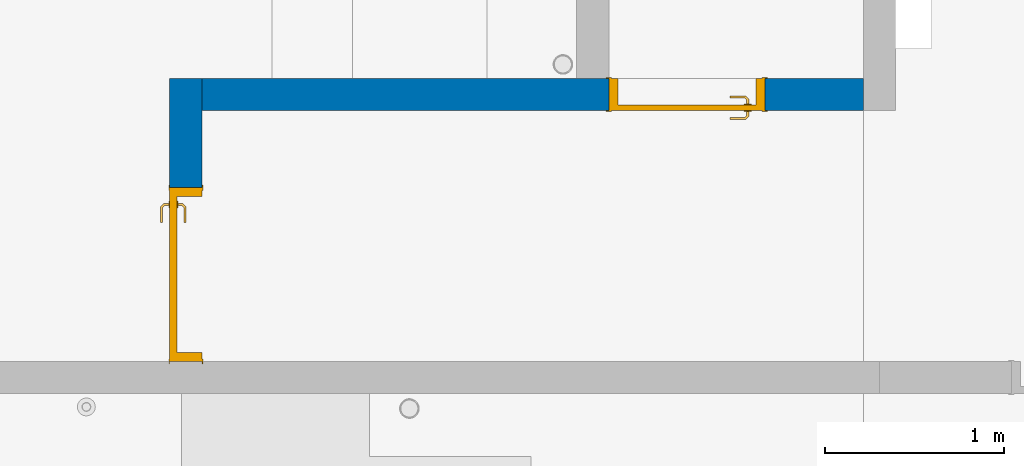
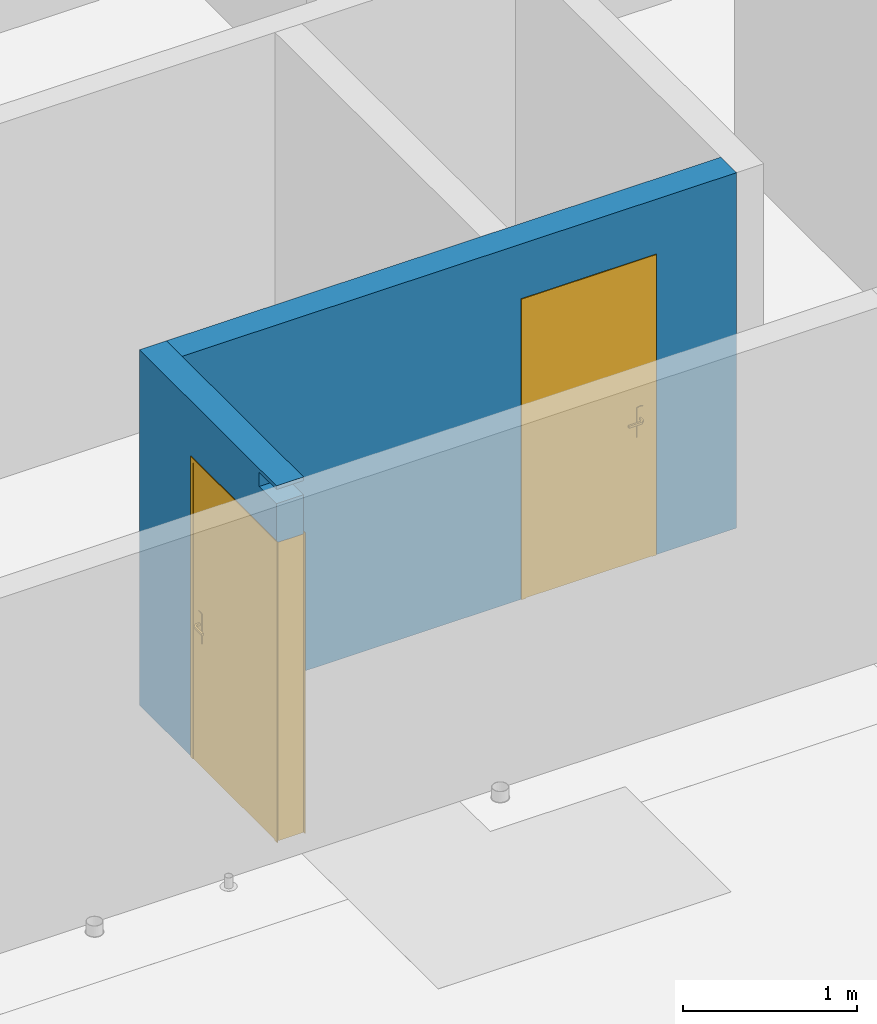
# One storey, part 8 of 34: 2 doors, 2 walls, 3 openings.
"""IFC2X3 building model written with IfcOpenShell, lengths in centimetres."""

from ifc_helpers import new_model, entity, si_unit, converted_unit, derived_unit, direction, frame, frame_2d, origin, place, context, subcontext, project, spatial, rectangle, extrude, faceted_brep, source, transform, mapped, material, material_list, layer, layer_set, layer_usage, type_object, type_shapes, element, fill, save


model = new_model("IFC2X3")

# Units and contexts
model_context = context("Model", 3, precision=0.001, world=origin(), true_north=direction((6.12303176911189e-17, 1.0)))
body_context = subcontext(model_context, "Body", "Model", "MODEL_VIEW")
ifc_project = project(units=[si_unit("LENGTHUNIT", "METRE", prefix="CENTI"), si_unit("AREAUNIT", "SQUARE_METRE"), si_unit("VOLUMEUNIT", "CUBIC_METRE"), converted_unit("PLANEANGLEUNIT", "DEGREE", entity("IfcRatioMeasure", 0.0174532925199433), si_unit("PLANEANGLEUNIT", "RADIAN"), dimensions=[0, 0, 0, 0, 0, 0, 0]), si_unit("MASSUNIT", "GRAM", prefix="KILO"), derived_unit("MASSDENSITYUNIT", [(si_unit("MASSUNIT", "GRAM", prefix="KILO"), 1), (si_unit("LENGTHUNIT", "METRE"), -3)]), si_unit("TIMEUNIT", "SECOND"), si_unit("FREQUENCYUNIT", "HERTZ"), si_unit("THERMODYNAMICTEMPERATUREUNIT", "DEGREE_CELSIUS"), derived_unit("THERMALTRANSMITTANCEUNIT", [(si_unit("MASSUNIT", "GRAM", prefix="KILO"), 1), (si_unit("THERMODYNAMICTEMPERATUREUNIT", "KELVIN"), -1), (si_unit("TIMEUNIT", "SECOND"), -3)]), derived_unit("VOLUMETRICFLOWRATEUNIT", [(si_unit("LENGTHUNIT", "METRE"), 3), (si_unit("TIMEUNIT", "SECOND"), -1)]), si_unit("ELECTRICCURRENTUNIT", "AMPERE"), si_unit("ELECTRICVOLTAGEUNIT", "VOLT"), si_unit("POWERUNIT", "WATT"), si_unit("FORCEUNIT", "NEWTON"), si_unit("ILLUMINANCEUNIT", "LUX"), si_unit("LUMINOUSFLUXUNIT", "LUMEN"), si_unit("LUMINOUSINTENSITYUNIT", "CANDELA"), derived_unit("USERDEFINED", [(si_unit("MASSUNIT", "GRAM", prefix="KILO"), -1), (si_unit("LENGTHUNIT", "METRE"), -2), (si_unit("TIMEUNIT", "SECOND"), 3), (si_unit("LUMINOUSFLUXUNIT", "LUMEN"), 1)]), derived_unit("LINEARVELOCITYUNIT", [(si_unit("LENGTHUNIT", "METRE"), 1), (si_unit("TIMEUNIT", "SECOND"), -1)]), si_unit("PRESSUREUNIT", "PASCAL"), derived_unit("USERDEFINED", [(si_unit("LENGTHUNIT", "METRE"), -2), (si_unit("MASSUNIT", "GRAM", prefix="KILO"), 1), (si_unit("TIMEUNIT", "SECOND"), -2)])], contexts=[model_context])

# Site, building, storey
site_placement = place(None, origin())
site = spatial("IfcSite", under=ifc_project, at=site_placement, Name="Default", CompositionType="ELEMENT")
building_placement = place(site_placement, origin())
building = spatial("IfcBuilding", under=site, at=building_placement, Name="CAGE 03", CompositionType="ELEMENT")
storey_placement = place(building_placement, frame((0.0, 0.0, 340.0)))
storey = spatial("IfcBuildingStorey", under=building, at=storey_placement, Name="R+1", CompositionType="ELEMENT", Elevation=340.0)

# Wall, openings, door
ifc_material_1 = material(Name="Béton, C25/30")
ifc_layer = layer(ifc_material_1, 18.0)
ifc_layer_set = layer_set([ifc_layer], Name="Mur de base:Voile BA 18")
ifc_layer_usage_1 = layer_usage(ifc_layer_set, "AXIS2", "NEGATIVE", 9.0)
wall_type = type_object("IfcWallType", Name="Mur de base:Voile BA 18", PredefinedType="STANDARD", material=ifc_layer_set)
wall_1_placement = place(storey_placement, frame((6453.36582014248, 4492.6606660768, 0.0), z_axis=(0.0, 0.0, 1.0), x_axis=(0.0, 1.0, 0.0)))
wall_1 = element("IfcWallStandardCase", 1, at=wall_1_placement, inside=storey, type_object=wall_type, material=ifc_layer_usage_1, Name="Mur de base:Voile BA 18", ObjectType="Mur de base:Voile BA 18", context=body_context, shape_type="SweptSolid", body=[
    extrude(rectangle(XDim=158.0, YDim=17.9999999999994, at=frame_2d((78.9999999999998, 1.66977542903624e-13), x_axis=(-1.0, 0.0))), origin(), (0.0, 0.0, 1.0), 250.0),
])
opening_1_placement = place(wall_1_placement, origin())
element("IfcOpeningElement", 2, at=opening_1_placement, cuts=wall_1, Name="Mur de base:Voile BA 18", ObjectType="Opening", context=body_context, shape_type="SweptSolid", body=[
    extrude(rectangle(XDim=10.0, YDim=19.9999999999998, at=frame_2d((-4.33431068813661e-13, 5.41788836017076e-14), x_axis=(0.0, 1.0))), frame((10.0, -9.0, 242.5), z_axis=(0.0, 1.0, 0.0), x_axis=(1.0, 0.0, 0.0)), (0.0, 0.0, 1.0), 17.9999999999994),
])
opening_2_placement = place(wall_1_placement, frame((0.0, -9.0, 0.0)))
opening_2 = element("IfcOpeningElement", 3, at=opening_2_placement, cuts=wall_1, Name="Int. Simple:HB93:1", ObjectType="Opening", context=body_context, shape_type="SweptSolid", body=[
    extrude(rectangle(XDim=210.000000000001, YDim=96.9999999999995, at=frame_2d((105.000000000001, 48.4999999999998), x_axis=(1.0, 0.0))), frame((0.0, 0.0, 0.0), z_axis=(0.0, 1.0, 0.0), x_axis=(0.0, 0.0, 1.0)), (0.0, 0.0, 1.0), 18.0),
])
ifc_material_2 = material(Name="Finition Peinture - Blanc satiné")
ifc_material_3 = material(Name="Bois - Panneau de porte")
ifc_material_4 = material(Name="Bois - Cadre de porte")
ifc_material_list_1 = material_list([ifc_material_2, ifc_material_3, ifc_material_4])
ifc_material_list_2 = material_list([ifc_material_2, ifc_material_3, ifc_material_4])
door_style_1 = type_object("IfcDoorStyle", Name="HB93", ConstructionType="NOTDEFINED", OperationType="SINGLE_SWING_LEFT", ParameterTakesPrecedence=False, Sizeable=False, material=ifc_material_list_2)
shared_shape_1 = source(origin(), body_context, "Body", "Brep", [
    faceted_brep([(10.5352761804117, -0.500000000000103, 86.6003983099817), (11.5000000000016, -0.500000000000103, 87.0), (11.5000000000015, -0.500000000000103, 108.0), (10.5352761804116, -0.500000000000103, 108.399601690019), (9.50000000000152, -0.500000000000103, 108.535898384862), (8.46472381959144, -0.500000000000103, 108.399601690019), (7.50000000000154, -0.500000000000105, 108.0), (7.50000000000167, -0.500000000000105, 87.0), (8.46472381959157, -0.500000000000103, 86.6003983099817), (9.50000000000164, -0.500000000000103, 86.464101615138), (10.5352761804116, 0.0, 108.399601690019), (11.5000000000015, 0.0, 108.0), (11.5000000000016, 0.0, 87.0), (10.5352761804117, 0.0, 86.6003983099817), (9.50000000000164, 0.0, 86.464101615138), (8.46472381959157, 0.0, 86.6003983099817), (7.50000000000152, 0.0, 87.0), (7.50000000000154, 0.0, 108.0), (8.46472381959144, 0.0, 108.399601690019), (9.50000000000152, 0.0, 108.535898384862)], [[[0, 1, 2, 3, 4, 5, 6, 7, 8, 9]], [[10, 11, 12, 13, 14, 15, 16, 17, 18, 19]], [[16, 15, 8, 7]], [[8, 15, 14, 9]], [[14, 13, 0, 9]], [[13, 12, 1, 0]], [[2, 1, 12, 11]], [[11, 10, 3, 2]], [[3, 10, 19, 4]], [[19, 18, 5, 4]], [[18, 17, 6, 5]], [[7, 6, 17, 16]]]),
    faceted_brep([(10.5352761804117, 4.0, 86.6003983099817), (11.5000000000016, 4.0, 87.0), (11.5000000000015, 4.0, 108.0), (10.5352761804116, 4.0, 108.399601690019), (9.50000000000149, 4.0, 108.535898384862), (8.46472381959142, 4.0, 108.399601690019), (7.50000000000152, 4.0, 108.0), (7.50000000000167, 4.0, 87.0), (8.46472381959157, 4.0, 86.6003983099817), (9.50000000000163, 4.0, 86.464101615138), (10.5352761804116, 4.49999999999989, 108.399601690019), (11.5000000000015, 4.4999999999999, 108.0), (11.5000000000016, 4.4999999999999, 87.0), (10.5352761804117, 4.49999999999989, 86.6003983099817), (9.50000000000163, 4.49999999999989, 86.464101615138), (8.46472381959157, 4.49999999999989, 86.6003983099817), (7.50000000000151, 4.49999999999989, 87.0), (7.50000000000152, 4.49999999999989, 108.0), (8.46472381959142, 4.49999999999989, 108.399601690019), (9.50000000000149, 4.49999999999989, 108.535898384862)], [[[0, 1, 2, 3, 4, 5, 6, 7, 8, 9]], [[10, 11, 12, 13, 14, 15, 16, 17, 18, 19]], [[11, 10, 3, 2]], [[3, 10, 19, 4]], [[19, 18, 5, 4]], [[18, 17, 6, 5]], [[7, 6, 17, 16]], [[16, 15, 8, 7]], [[8, 15, 14, 9]], [[14, 13, 0, 9]], [[13, 12, 1, 0]], [[2, 1, 12, 11]]]),
    faceted_brep([(9.29747013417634, -0.500000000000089, 100.778044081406), (9.70252986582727, -0.500000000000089, 100.778044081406), (10.1000000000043, -0.500000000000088, 100.699999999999), (10.1000000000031, -0.500000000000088, 99.3000000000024), (9.70252986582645, -0.500000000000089, 99.2219559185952), (9.29747013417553, -0.500000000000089, 99.221955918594), (8.89999999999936, -0.500000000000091, 99.2999999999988), (8.89999999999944, -0.500000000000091, 100.7), (8.89999999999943, -3.26509507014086, 100.7), (9.29747013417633, -3.10045754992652, 100.778044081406), (10.9023585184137, -4.70534593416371, 100.778044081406), (11.0701397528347, -4.30028620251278, 100.778044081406), (9.70252986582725, -2.93267631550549, 100.778044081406), (10.1000000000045, -2.76803879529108, 100.7), (10.1000000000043, -2.76803879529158, 99.3000000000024), (9.70252986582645, -2.93267631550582, 99.2219559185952), (11.0701397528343, -4.30028620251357, 99.2219559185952), (10.9023585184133, -4.70534593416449, 99.221955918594), (9.29747013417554, -3.10045754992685, 99.221955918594), (8.89999999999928, -3.26509507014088, 99.2999999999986), (10.7377209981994, -5.1028160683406, 100.7), (11.2347772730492, -3.90281606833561, 100.7), (11.2347772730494, -3.90281606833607, 99.3000000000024), (10.7377209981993, -5.10281606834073, 99.2999999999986), (19.5018640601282, -5.1028160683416, 99.2999999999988), (19.5018640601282, -4.70534593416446, 99.221955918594), (19.5018640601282, -4.30028620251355, 99.2219559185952), (19.5018640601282, -3.90281606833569, 99.3000000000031), (19.5018640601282, -3.90281606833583, 100.7), (19.5018640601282, -4.30028620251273, 100.778044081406), (19.5018640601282, -4.70534593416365, 100.778044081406), (19.5018640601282, -5.10281606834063, 100.699999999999), (14.7307697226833, -5.10281606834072, 100.7), (15.28600190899, -4.5028160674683, 100.78786867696), (15.3683206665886, -3.9028160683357, 100.7), (15.3683206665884, -3.90281606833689, 99.3000000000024), (15.2860018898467, -4.50281607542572, 99.2121313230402), (14.7307700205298, -5.10281606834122, 99.2999999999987)], [[[0, 1, 2, 3, 4, 5, 6, 7]], [[8, 9, 0, 7]], [[9, 10, 11, 12, 1, 0]], [[12, 13, 2, 1]], [[3, 2, 13, 14]], [[14, 15, 4, 3]], [[15, 16, 17, 18, 5, 4]], [[18, 19, 6, 5]], [[7, 6, 19, 8]], [[20, 10, 9, 8]], [[11, 21, 13, 12]], [[14, 13, 21, 22]], [[22, 16, 15, 14]], [[17, 23, 19, 18]], [[8, 19, 23, 20]], [[24, 25, 26, 27, 28, 29, 30, 31]], [[32, 30, 33]], [[31, 30, 32]], [[10, 20, 32]], [[33, 34, 11]], [[21, 11, 34]], [[34, 29, 28]], [[30, 29, 33]], [[29, 34, 33]], [[10, 32, 33]], [[10, 33, 11]], [[22, 21, 34, 28, 27, 35]], [[35, 26, 36]], [[37, 36, 25]], [[22, 35, 16]], [[35, 27, 26]], [[24, 37, 25]], [[23, 17, 37]], [[37, 17, 36]], [[17, 16, 36]], [[16, 35, 36]], [[25, 36, 26]], [[20, 23, 37, 24, 31, 32]]]),
    faceted_brep([(9.29747013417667, 4.49999999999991, 100.778044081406), (8.89999999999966, 4.49999999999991, 100.7), (8.89999999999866, 4.49999999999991, 99.2999999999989), (9.2974701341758, 4.49999999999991, 99.221955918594), (9.70252986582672, 4.49999999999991, 99.2219559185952), (10.1000000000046, 4.49999999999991, 99.3000000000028), (10.1000000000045, 4.49999999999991, 100.7), (9.70252986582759, 4.49999999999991, 100.778044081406), (10.1000000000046, 6.7485204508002, 99.3000000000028), (10.1000000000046, 6.74852045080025, 100.7), (9.70252986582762, 6.91315797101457, 100.778044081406), (11.0838906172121, 8.29451872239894, 100.778044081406), (10.9161093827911, 8.69957845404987, 100.778044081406), (9.29747013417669, 7.0809392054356, 100.778044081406), (8.89999999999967, 7.24557672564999, 100.7), (8.89999999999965, 7.24557672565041, 99.2999999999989), (9.29747013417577, 7.08093920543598, 99.221955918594), (10.9161093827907, 8.69957845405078, 99.221955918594), (11.0838906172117, 8.29451872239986, 99.2219559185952), (9.7025298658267, 6.91315797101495, 99.2219559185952), (11.2485281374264, 7.89704858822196, 99.3000000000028), (11.2485281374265, 7.89704858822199, 100.7), (10.7514718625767, 9.0970485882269, 100.7), (10.751471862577, 9.0970485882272, 99.2999999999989), (19.504578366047, 7.89704858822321, 99.3000000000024), (19.504578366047, 8.29451872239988, 99.2219559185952), (19.504578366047, 8.6995784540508, 99.221955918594), (19.504578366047, 9.09704858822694, 99.2999999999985), (19.504578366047, 9.09704858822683, 100.7), (19.504578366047, 8.69957845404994, 100.778044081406), (19.504578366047, 8.29451872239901, 100.778044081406), (19.504578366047, 7.89704858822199, 100.7), (15.3765520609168, 7.89704858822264, 99.3000000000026), (15.3765532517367, 7.89704858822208, 100.7), (15.294234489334, 8.49704858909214, 100.78786867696), (14.7445205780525, 9.09704858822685, 100.7), (14.7445204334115, 9.09704858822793, 99.2999999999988), (15.2942345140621, 8.49704858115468, 99.2121313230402)], [[[0, 1, 2, 3, 4, 5, 6, 7]], [[6, 5, 8, 9]], [[9, 10, 7, 6]], [[10, 11, 12, 13, 0, 7]], [[13, 14, 1, 0]], [[2, 1, 14, 15]], [[15, 16, 3, 2]], [[16, 17, 18, 19, 4, 3]], [[19, 8, 5, 4]], [[9, 8, 20, 21]], [[21, 11, 10, 9]], [[12, 22, 14, 13]], [[15, 14, 22, 23]], [[23, 17, 16, 15]], [[18, 20, 8, 19]], [[24, 25, 26, 27, 28, 29, 30, 31]], [[21, 20, 32, 24, 31, 33]], [[33, 30, 34]], [[35, 34, 29]], [[21, 33, 11]], [[33, 31, 30]], [[28, 35, 29]], [[22, 12, 35]], [[35, 12, 34]], [[12, 11, 34]], [[11, 33, 34]], [[29, 34, 30]], [[22, 35, 28, 27, 36, 23]], [[36, 26, 37]], [[27, 26, 36]], [[17, 23, 36]], [[37, 32, 18]], [[20, 18, 32]], [[32, 25, 24]], [[26, 25, 37]], [[25, 32, 37]], [[17, 36, 37]], [[17, 37, 18]]]),
    faceted_brep([(3.50000000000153, 4.0, 206.5), (93.5000000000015, 4.0, 206.5), (93.5000000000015, 4.0, 0.0), (3.50000000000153, 4.0, 0.0), (3.50000000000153, 0.0, 206.5), (3.50000000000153, 0.0, 0.0), (93.5000000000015, 0.0, 0.0), (93.5000000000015, 0.0, 206.5)], [[[0, 1, 2, 3]], [[4, 5, 6, 7]], [[1, 0, 4, 7]], [[2, 1, 7, 6]], [[3, 2, 6, 5]], [[0, 3, 5, 4]]]),
    faceted_brep([(0.0, 0.0, 0.0), (0.0, 18.0, 0.0), (5.0, 18.0, 0.0), (5.0, 4.0, 0.0), (3.50000000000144, 4.0, 0.0), (3.50000000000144, 0.0, 0.0), (0.0, 0.0, 210.0), (0.0, 18.0, 210.0), (97.0, 18.0, 210.0), (97.0, 18.0, 0.0), (92.0, 18.0, 0.0), (92.0, 18.0, 205.0), (5.0, 18.0, 205.0), (5.0, 4.0, 205.0), (92.0, 4.0, 205.0), (92.0, 4.0, 0.0), (93.4999999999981, 4.0, 0.0), (93.4999999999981, 4.0, 206.5), (3.50000000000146, 4.0, 206.5), (3.50000000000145, 0.0, 206.5), (93.4999999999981, 0.0, 206.5), (93.4999999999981, 0.0, 0.0), (97.0, 0.0, 0.0), (97.0, 0.0, 210.0)], [[[0, 1, 2, 3, 4, 5]], [[1, 0, 6, 7]], [[2, 1, 7, 8, 9, 10, 11, 12]], [[3, 2, 12, 13]], [[4, 3, 13, 14, 15, 16, 17, 18]], [[5, 4, 18, 19]], [[0, 5, 19, 20, 21, 22, 23, 6]], [[8, 23, 22, 9]], [[22, 21, 16, 15, 10, 9]], [[14, 11, 10, 15]], [[20, 17, 16, 21]], [[7, 6, 23, 8]], [[13, 12, 11, 14]], [[19, 18, 17, 20]]]),
    faceted_brep([(1.5, 18.0, 0.0), (-1.49999999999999, 18.0, 0.0), (-1.49999999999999, 18.5000000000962, 0.0), (1.5, 18.5000000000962, 0.0), (1.5, 18.0, 208.500000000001), (95.4999999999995, 18.0, 208.500000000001), (95.4999999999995, 18.0, 0.0), (98.4999999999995, 18.0, 0.0), (98.4999999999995, 18.0, 211.500000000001), (-1.49999999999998, 18.0, 211.500000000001), (-1.49999999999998, 18.5000000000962, 211.500000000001), (98.4999999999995, 18.5000000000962, 211.500000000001), (98.4999999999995, 18.5000000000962, 0.0), (95.4999999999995, 18.5000000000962, 0.0), (95.4999999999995, 18.5000000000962, 208.500000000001), (1.50000000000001, 18.5000000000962, 208.500000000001)], [[[0, 1, 2, 3]], [[1, 0, 4, 5, 6, 7, 8, 9]], [[2, 1, 9, 10]], [[3, 2, 10, 11, 12, 13, 14, 15]], [[0, 3, 15, 4]], [[6, 13, 12, 7]], [[5, 14, 13, 6]], [[11, 8, 7, 12]], [[10, 9, 8, 11]], [[4, 15, 14, 5]]]),
    faceted_brep([(-1.49999999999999, -0.5, 0.0), (1.5, -0.5, 0.0), (1.5, -0.5, 208.500000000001), (95.4999999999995, -0.5, 208.500000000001), (95.4999999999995, -0.5, 0.0), (98.4999999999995, -0.5, 0.0), (98.4999999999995, -0.5, 211.500000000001), (-1.49999999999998, -0.5, 211.500000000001), (-1.49999999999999, 0.0, 0.0), (-1.49999999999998, 0.0, 211.500000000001), (1.5, 0.0, 0.0), (98.4999999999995, 0.0, 211.500000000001), (98.4999999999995, 0.0, 0.0), (95.4999999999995, 0.0, 0.0), (95.4999999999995, 0.0, 208.500000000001), (1.50000000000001, 0.0, 208.500000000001)], [[[0, 1, 2, 3, 4, 5, 6, 7]], [[8, 0, 7, 9]], [[10, 8, 9, 11, 12, 13, 14, 15]], [[1, 10, 15, 2]], [[3, 14, 13, 4]], [[11, 6, 5, 12]], [[9, 7, 6, 11]], [[2, 15, 14, 3]], [[4, 13, 12, 5]], [[1, 0, 8, 10]]]),
])
type_shapes(door_style_1, [shared_shape_1])
door_1_placement = place(opening_2_placement, frame((97.0, 18.0, 0.0), z_axis=(0.0, 0.0, 1.0), x_axis=(-1.0, 0.0, 0.0)))
door_1 = element("IfcDoor", 4, at=door_1_placement, inside=storey, type_object=door_style_1, material=ifc_material_list_1, Name="Int. Simple:HB93", ObjectType="HB93", OverallHeight=210.000000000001, OverallWidth=96.9999999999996, context=body_context, shape_type="MappedRepresentation", body=[
    mapped(shared_shape_1, transform((0.0, 0.0, 0.0), scale=1.0)),
])
fill(opening_2, door_1)

# Wall, opening, door
ifc_layer_usage_2 = layer_usage(ifc_layer_set, "AXIS2", "NEGATIVE", 9.0)
wall_2_placement = place(storey_placement, frame((6462.36582014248, 4641.6606660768, 0.0)))
wall_2 = element("IfcWallStandardCase", 5, at=wall_2_placement, inside=storey, type_object=wall_type, material=ifc_layer_usage_2, Name="Mur de base:Voile BA 18", ObjectType="Mur de base:Voile BA 18", context=body_context, shape_type="SweptSolid", body=[
    extrude(rectangle(XDim=369.000000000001, YDim=17.9999999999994, at=frame_2d((184.500000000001, -6.21724893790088e-14), x_axis=(-1.0, 0.0))), origin(), (0.0, 0.0, 1.0), 250.0),
])
opening_3_placement = place(wall_2_placement, frame((314.0, 9.0, 0.0)))
opening_3 = element("IfcOpeningElement", 6, at=opening_3_placement, cuts=wall_2, Name="Int. Simple:HB83:1", ObjectType="Opening", context=body_context, shape_type="SweptSolid", body=[
    extrude(rectangle(XDim=210.000000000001, YDim=86.9999999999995, at=frame_2d((105.000000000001, 43.4999999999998), x_axis=(1.0, 0.0))), frame((0.0, 0.0, 0.0), z_axis=(0.0, -1.0, 0.0), x_axis=(0.0, 0.0, 1.0)), (0.0, 0.0, 1.0), 18.0),
])
ifc_material_list_3 = material_list([ifc_material_2, ifc_material_3, ifc_material_4])
ifc_material_list_4 = material_list([ifc_material_2, ifc_material_3, ifc_material_4])
door_style_2 = type_object("IfcDoorStyle", Name="HB83", ConstructionType="NOTDEFINED", OperationType="SINGLE_SWING_RIGHT", ParameterTakesPrecedence=False, Sizeable=False, material=ifc_material_list_4)
shared_shape_2 = source(origin(), body_context, "Body", "Brep", [
    faceted_brep([(86.5000000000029, -0.500000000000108, 87.0), (86.5000000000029, -0.500000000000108, 108.0), (85.535276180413, -0.500000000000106, 108.399601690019), (84.5000000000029, -0.500000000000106, 108.535898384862), (83.4647238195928, -0.500000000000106, 108.399601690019), (82.500000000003, -0.500000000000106, 108.0), (82.5000000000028, -0.500000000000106, 87.0), (83.4647238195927, -0.500000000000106, 86.6003983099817), (84.5000000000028, -0.500000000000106, 86.464101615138), (85.5352761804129, -0.500000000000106, 86.6003983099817), (86.5000000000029, 0.0, 108.0), (86.5000000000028, 0.0, 87.0), (85.5352761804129, 0.0, 86.6003983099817), (84.5000000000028, 0.0, 86.464101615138), (83.4647238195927, 0.0, 86.6003983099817), (82.5000000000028, 0.0, 87.0), (82.500000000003, 0.0, 108.0), (83.4647238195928, 0.0, 108.399601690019), (84.5000000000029, 0.0, 108.535898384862), (85.535276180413, 0.0, 108.399601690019)], [[[0, 1, 2, 3, 4, 5, 6, 7, 8, 9]], [[10, 11, 12, 13, 14, 15, 16, 17, 18, 19]], [[9, 12, 11, 0]], [[8, 13, 12, 9]], [[7, 14, 13, 8]], [[7, 6, 15, 14]], [[15, 6, 5, 16]], [[4, 17, 16, 5]], [[3, 18, 17, 4]], [[2, 19, 18, 3]], [[2, 1, 10, 19]], [[11, 10, 1, 0]]]),
    faceted_brep([(86.5000000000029, 3.0, 87.0), (86.5000000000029, 3.0, 108.0), (85.535276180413, 3.0, 108.399601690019), (84.500000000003, 3.0, 108.535898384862), (83.4647238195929, 3.0, 108.399601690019), (82.500000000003, 3.0, 108.0), (82.5000000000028, 3.0, 87.0), (83.4647238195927, 3.0, 86.6003983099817), (84.5000000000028, 3.0, 86.464101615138), (85.5352761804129, 3.0, 86.6003983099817), (84.500000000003, 3.49999999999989, 108.535898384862), (85.535276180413, 3.49999999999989, 108.399601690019), (86.5000000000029, 3.49999999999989, 108.0), (86.5000000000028, 3.49999999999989, 87.0), (85.5352761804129, 3.49999999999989, 86.6003983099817), (84.5000000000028, 3.49999999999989, 86.464101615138), (83.4647238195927, 3.49999999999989, 86.6003983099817), (82.5000000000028, 3.49999999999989, 87.0), (82.500000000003, 3.49999999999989, 108.0), (83.4647238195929, 3.49999999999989, 108.399601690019)], [[[0, 1, 2, 3, 4, 5, 6, 7, 8, 9]], [[10, 11, 12, 13, 14, 15, 16, 17, 18, 19]], [[4, 19, 18, 5]], [[3, 10, 19, 4]], [[2, 11, 10, 3]], [[2, 1, 12, 11]], [[13, 12, 1, 0]], [[9, 14, 13, 0]], [[8, 15, 14, 9]], [[7, 16, 15, 8]], [[7, 6, 17, 16]], [[17, 6, 5, 18]]]),
    faceted_brep([(84.297470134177, -0.500000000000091, 100.778044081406), (84.7025298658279, -0.500000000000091, 100.778044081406), (85.1000000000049, -0.500000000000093, 100.699999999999), (85.1000000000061, -0.500000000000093, 99.299999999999), (84.702529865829, -0.500000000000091, 99.2219559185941), (84.297470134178, -0.500000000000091, 99.2219559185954), (83.9000000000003, -0.500000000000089, 99.3000000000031), (83.9000000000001, -0.500000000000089, 100.7), (84.7025298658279, -3.1004575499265, 100.778044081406), (85.1000000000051, -3.26509507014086, 100.7), (84.297470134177, -2.93267631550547, 100.778044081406), (82.9298602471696, -4.30028620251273, 100.778044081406), (83.0976414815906, -4.70534593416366, 100.778044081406), (83.9000000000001, -2.76803879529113, 100.7), (83.9000000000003, -2.76803879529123, 99.3000000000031), (84.297470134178, -2.93267631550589, 99.2219559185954), (84.702529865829, -3.10045754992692, 99.2219559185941), (83.097641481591, -4.70534593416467, 99.2219559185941), (82.92986024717, -4.30028620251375, 99.2219559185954), (85.1000000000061, -3.26509507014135, 99.299999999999), (83.2622790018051, -5.10281606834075, 100.7), (82.7652227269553, -3.90281606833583, 100.7), (82.7652227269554, -3.90281606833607, 99.3000000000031), (83.2622790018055, -5.10281606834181, 99.299999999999), (74.4981359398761, -5.1028160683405, 100.7), (74.4981359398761, -4.7053459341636, 100.778044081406), (74.4981359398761, -4.30028620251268, 100.778044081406), (74.4981359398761, -3.90281606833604, 100.699999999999), (74.4981359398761, -3.90281606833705, 99.3000000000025), (74.4981359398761, -4.30028620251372, 99.2219559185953), (74.4981359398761, -4.70534593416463, 99.2219559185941), (74.4981359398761, -5.10281606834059, 99.2999999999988), (78.7139980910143, -4.50281606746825, 100.78786867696), (79.2692302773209, -5.10281606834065, 100.7), (78.6316793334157, -3.90281606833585, 100.7), (78.6316793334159, -3.90281606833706, 99.3000000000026), (78.7139981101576, -4.50281607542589, 99.2121313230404), (79.2692299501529, -5.10281606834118, 99.2999999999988)], [[[0, 1, 2, 3, 4, 5, 6, 7]], [[2, 1, 8, 9]], [[1, 0, 10, 11, 12, 8]], [[0, 7, 13, 10]], [[14, 13, 7, 6]], [[5, 15, 14, 6]], [[5, 4, 16, 17, 18, 15]], [[3, 19, 16, 4]], [[9, 19, 3, 2]], [[9, 8, 12, 20]], [[10, 13, 21, 11]], [[22, 21, 13, 14]], [[14, 15, 18, 22]], [[16, 19, 23, 17]], [[20, 23, 19, 9]], [[24, 25, 26, 27, 28, 29, 30, 31]], [[32, 25, 33]], [[33, 25, 24]], [[33, 20, 12]], [[11, 34, 32]], [[34, 11, 21]], [[27, 26, 34]], [[32, 26, 25]], [[32, 34, 26]], [[32, 33, 12]], [[11, 32, 12]], [[21, 22, 35, 28, 27, 34]], [[36, 29, 35]], [[30, 36, 37]], [[18, 35, 22]], [[29, 28, 35]], [[30, 37, 31]], [[37, 17, 23]], [[36, 17, 37]], [[36, 18, 17]], [[36, 35, 18]], [[29, 36, 30]], [[23, 20, 33, 24, 31, 37]]]),
    faceted_brep([(84.2974701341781, 3.49999999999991, 99.2219559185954), (84.702529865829, 3.49999999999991, 99.2219559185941), (85.1000000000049, 3.4999999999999, 99.2999999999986), (85.1000000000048, 3.4999999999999, 100.7), (84.7025298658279, 3.49999999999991, 100.778044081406), (84.297470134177, 3.49999999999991, 100.778044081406), (83.9000000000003, 3.49999999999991, 100.7), (83.9000000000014, 3.49999999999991, 99.3000000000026), (83.9000000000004, 5.74852045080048, 100.7), (83.9000000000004, 5.74852045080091, 99.3000000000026), (84.2974701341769, 5.91315797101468, 100.778044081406), (84.7025298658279, 6.08093920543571, 100.778044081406), (83.0838906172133, 7.69957845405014, 100.778044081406), (82.9161093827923, 7.29451872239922, 100.778044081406), (85.1000000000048, 6.24557672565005, 100.7), (85.1000000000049, 6.2455767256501, 99.2999999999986), (84.702529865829, 6.08093920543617, 99.2219559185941), (84.2974701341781, 5.91315797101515, 99.2219559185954), (82.9161093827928, 7.29451872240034, 99.2219559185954), (83.0838906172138, 7.69957845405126, 99.2219559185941), (82.7514718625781, 6.89704858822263, 100.7), (82.7514718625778, 6.89704858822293, 99.3000000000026), (83.2485281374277, 8.09704858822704, 100.7), (83.2485281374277, 8.09704858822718, 99.2999999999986), (74.4954216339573, 7.29451872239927, 100.778044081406), (74.4954216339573, 7.6995784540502, 100.778044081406), (74.4954216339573, 8.0970485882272, 100.7), (74.4954216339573, 8.09704858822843, 99.299999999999), (74.4954216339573, 7.6995784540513, 99.2219559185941), (74.4954216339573, 7.29451872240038, 99.2219559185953), (74.4954216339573, 6.89704858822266, 99.3000000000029), (74.4954216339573, 6.89704858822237, 100.7), (78.6234467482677, 6.89704858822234, 100.7), (78.6234479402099, 6.89704858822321, 99.3000000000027), (78.7057655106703, 7.4970485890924, 100.78786867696), (79.255479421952, 8.09704858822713, 100.7), (79.2554794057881, 8.09704858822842, 99.299999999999), (78.7057654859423, 7.49704858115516, 99.2121313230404)], [[[0, 1, 2, 3, 4, 5, 6, 7]], [[8, 9, 7, 6]], [[5, 10, 8, 6]], [[5, 4, 11, 12, 13, 10]], [[3, 14, 11, 4]], [[14, 3, 2, 15]], [[2, 1, 16, 15]], [[1, 0, 17, 18, 19, 16]], [[0, 7, 9, 17]], [[20, 21, 9, 8]], [[8, 10, 13, 20]], [[14, 22, 12, 11]], [[23, 22, 14, 15]], [[15, 16, 19, 23]], [[17, 9, 21, 18]], [[24, 25, 26, 27, 28, 29, 30, 31]], [[20, 32, 31, 30, 33, 21]], [[34, 24, 32]], [[25, 34, 35]], [[13, 32, 20]], [[24, 31, 32]], [[25, 35, 26]], [[35, 12, 22]], [[34, 12, 35]], [[34, 13, 12]], [[34, 32, 13]], [[24, 34, 25]], [[22, 23, 36, 27, 26, 35]], [[37, 28, 36]], [[36, 28, 27]], [[36, 23, 19]], [[18, 33, 37]], [[33, 18, 21]], [[30, 29, 33]], [[37, 29, 28]], [[37, 33, 29]], [[37, 36, 19]], [[18, 37, 19]]]),
    faceted_brep([(90.5000000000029, 3.0, 206.5), (90.5000000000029, 3.0, 0.0), (10.5000000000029, 3.0, 0.0), (10.5000000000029, 3.0, 206.5), (90.5000000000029, 0.0, 206.5), (10.5000000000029, 0.0, 206.5), (10.5000000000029, 0.0, 0.0), (90.5000000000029, 0.0, 0.0)], [[[0, 1, 2, 3]], [[4, 5, 6, 7]], [[3, 5, 4, 0]], [[2, 6, 5, 3]], [[1, 7, 6, 2]], [[0, 4, 7, 1]]]),
    faceted_brep([(94.0, 0.0, 0.0), (90.5000000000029, 0.0, 0.0), (90.5000000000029, 3.0, 0.0), (89.0, 3.0, 0.0), (89.0, 18.0, 0.0), (94.0, 18.0, 0.0), (94.0, 18.0, 210.0), (94.0, 0.0, 210.0), (89.0, 18.0, 205.0), (12.0, 18.0, 205.0), (12.0, 18.0, 0.0), (7.0, 18.0, 0.0), (7.0, 18.0, 210.0), (89.0, 3.0, 205.0), (90.5000000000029, 3.0, 206.5), (10.5000000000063, 3.0, 206.5), (10.5000000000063, 3.0, 0.0), (12.0, 3.0, 0.0), (12.0, 3.0, 205.0), (90.5000000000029, 0.0, 206.5), (7.0, 0.0, 210.0), (7.0, 0.0, 0.0), (10.5000000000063, 0.0, 0.0), (10.5000000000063, 0.0, 206.5)], [[[0, 1, 2, 3, 4, 5]], [[5, 6, 7, 0]], [[4, 8, 9, 10, 11, 12, 6, 5]], [[3, 13, 8, 4]], [[2, 14, 15, 16, 17, 18, 13, 3]], [[1, 19, 14, 2]], [[0, 7, 20, 21, 22, 23, 19, 1]], [[12, 11, 21, 20]], [[21, 11, 10, 17, 16, 22]], [[18, 17, 10, 9]], [[23, 22, 16, 15]], [[6, 12, 20, 7]], [[13, 18, 9, 8]], [[19, 23, 15, 14]]]),
    faceted_brep([(92.5000000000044, 18.0, 0.0), (92.5000000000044, 18.5000000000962, 0.0), (95.5000000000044, 18.5000000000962, 0.0), (95.5000000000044, 18.0, 0.0), (95.5000000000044, 18.0, 211.500000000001), (5.50000000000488, 18.0, 211.500000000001), (5.50000000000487, 18.0, 0.0), (8.50000000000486, 18.0, 0.0), (8.50000000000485, 18.0, 208.500000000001), (92.5000000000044, 18.0, 208.500000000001), (95.5000000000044, 18.5000000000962, 211.500000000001), (92.5000000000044, 18.5000000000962, 208.500000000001), (8.50000000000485, 18.5000000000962, 208.500000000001), (8.50000000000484, 18.5000000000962, 0.0), (5.50000000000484, 18.5000000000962, 0.0), (5.50000000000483, 18.5000000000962, 211.500000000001)], [[[0, 1, 2, 3]], [[3, 4, 5, 6, 7, 8, 9, 0]], [[2, 10, 4, 3]], [[1, 11, 12, 13, 14, 15, 10, 2]], [[0, 9, 11, 1]], [[7, 6, 14, 13]], [[8, 7, 13, 12]], [[15, 14, 6, 5]], [[10, 15, 5, 4]], [[9, 8, 12, 11]]]),
    faceted_brep([(95.5000000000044, -0.5, 0.0), (95.5000000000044, -0.5, 211.500000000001), (5.50000000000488, -0.5, 211.500000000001), (5.50000000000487, -0.5, 0.0), (8.50000000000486, -0.5, 0.0), (8.50000000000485, -0.5, 208.500000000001), (92.5000000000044, -0.5, 208.500000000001), (92.5000000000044, -0.5, 0.0), (95.5000000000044, 0.0, 0.0), (95.5000000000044, 0.0, 211.500000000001), (92.5000000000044, 0.0, 0.0), (92.5000000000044, 0.0, 208.500000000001), (8.50000000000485, 0.0, 208.500000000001), (8.50000000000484, 0.0, 0.0), (5.50000000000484, 0.0, 0.0), (5.50000000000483, 0.0, 211.500000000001)], [[[0, 1, 2, 3, 4, 5, 6, 7]], [[8, 9, 1, 0]], [[10, 11, 12, 13, 14, 15, 9, 8]], [[7, 6, 11, 10]], [[5, 4, 13, 12]], [[15, 14, 3, 2]], [[9, 15, 2, 1]], [[6, 5, 12, 11]], [[4, 3, 14, 13]], [[7, 10, 8, 0]]]),
])
type_shapes(door_style_2, [shared_shape_2])
door_2_placement = place(opening_3_placement, frame((-94.0, -18.0, 0.0)))
door_2 = element("IfcDoor", 7, at=door_2_placement, inside=storey, type_object=door_style_2, material=ifc_material_list_3, Name="Int. Simple:HB83", ObjectType="HB83", OverallHeight=210.000000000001, OverallWidth=86.9999999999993, context=body_context, shape_type="MappedRepresentation", body=[
    mapped(shared_shape_2, transform((0.0, 0.0, 0.0), scale=1.0)),
])
fill(opening_3, door_2)

save(model, "model.ifc")
